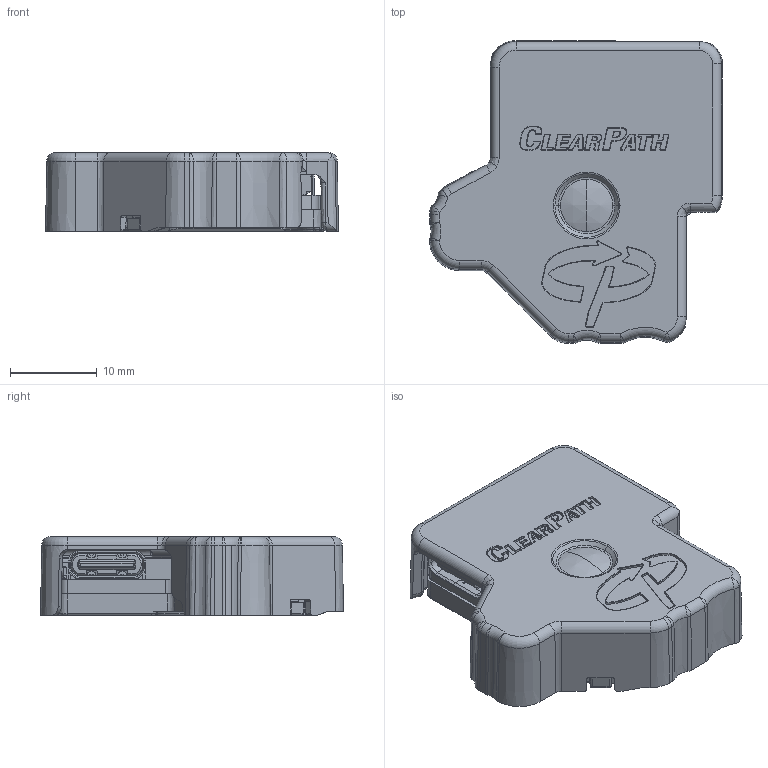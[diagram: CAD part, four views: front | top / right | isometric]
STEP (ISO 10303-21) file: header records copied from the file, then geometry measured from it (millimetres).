
FILE_DESCRIPTION (( 'STEP AP214' ), '1' );
FILE_NAME ('EtherPath CPM-S Dongle.STEP', '2022-06-08T12:47:07', ( '' ), ( '' ), 'SwSTEP 2.0', 'SolidWorks 2020', '' );
FILE_SCHEMA (( 'AUTOMOTIVE_DESIGN' ));
Length unit declared in the file: inch
Products named in the file (1): EtherPath CPM-S Dongle
Bounding box: 33.86 x 35.02 x 9.13 mm (x, y, z)
Volume: 4261.8 mm3; surface area: 8274.2 mm2
Topology: 6 solids, 6 shells, 3691 faces, 10031 edges, 6245 vertices
Faces by surface type: plane 1696, cylinder 1006, bspline 567, torus 220, cone 161, sphere 41
Entity records: 174962 total; most frequent: CARTESIAN_POINT 38153, ORIENTED_EDGE 19942, DIRECTION 17069, EDGE_CURVE 9971, VERTEX_POINT 6245, VECTOR 5709, LINE 5709, AXIS2_PLACEMENT_3D 5680
